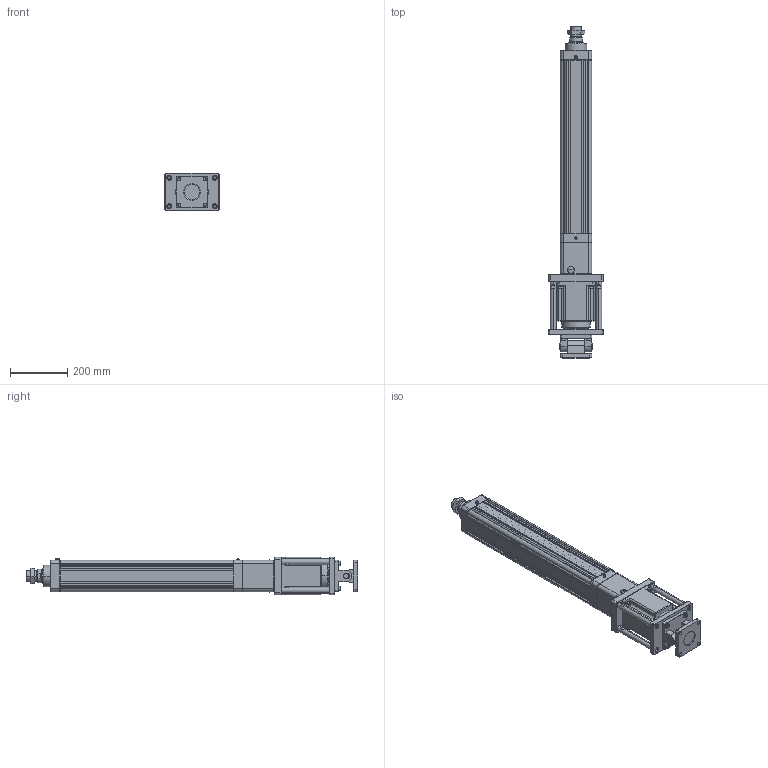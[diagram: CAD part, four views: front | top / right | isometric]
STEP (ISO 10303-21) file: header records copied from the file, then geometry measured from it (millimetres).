
FILE_DESCRIPTION((''),'2;1');
FILE_NAME('HE100-D-P_ASM','2020-05-13T',('ASUS20200'),(''),'CREO PARAMETRIC BY PTC INC, 2014190','CREO PARAMETRIC BY PTC INC, 2014190','');
FILE_SCHEMA(('CONFIG_CONTROL_DESIGN'));
Length unit declared in the file: millimetre
Products named in the file (27): HE100-D-P-001-X1; HE100-D-P-002-X1; HE100-D-P-003-X1; 30305J; JDB506030; SLM-01; YZ-M6X1; HE100-100-D-P-X1_ASM; HE100-D-009-X1; HE100-D-010-X1-130N; M8X20; 130ST-M10010; TD-8; M8X40; SKT-20; HE100-D-P-005-X1; HE100-D-P-004-X1; HE80-D-P-008-X1; LGLM-M10-25; HE100-FB-LG; F-HE100FB; M10X30; F-SE100CB; F-SE100CB-XD; F-SE100CB_ASM; F-SE100CA; HE100-D-P_ASM
Assembly tree (54 placements, depth 3):
  HE100-D-P_ASM
    HE100-100-D-P-X1_ASM
      HE100-D-P-001-X1
      HE100-D-P-002-X1
      HE100-D-P-003-X1
      30305J  x2
      JDB506030
      SLM-01
      YZ-M6X1
    HE100-D-009-X1
    HE100-D-010-X1-130N
    M8X20  x4
    130ST-M10010
    TD-8  x4
    M8X40  x4
    SKT-20  x2
    HE100-D-P-005-X1
    HE100-D-P-004-X1
    HE80-D-P-008-X1
    LGLM-M10-25  x4
    HE100-FB-LG  x4
    F-HE100FB
    M10X30  x12
    F-SE100CB_ASM
      F-SE100CB
      F-SE100CB-XD
    F-SE100CA
Bounding box: 190 x 1164 x 130 mm (x, y, z)
Volume: 7685425 mm3; surface area: 1566293.4 mm2
Topology: 52 solids, 87 shells, 2600 faces, 5982 edges, 3599 vertices
Faces by surface type: plane 888, cylinder 773, cone 771, torus 134, sphere 30, bspline 4
Entity records: 56997 total; most frequent: CARTESIAN_POINT 10675, DIRECTION 10336, ORIENTED_EDGE 8890, EDGE_CURVE 4500, AXIS2_PLACEMENT_3D 4013, VERTEX_POINT 2709, VECTOR 2310, LINE 2310
